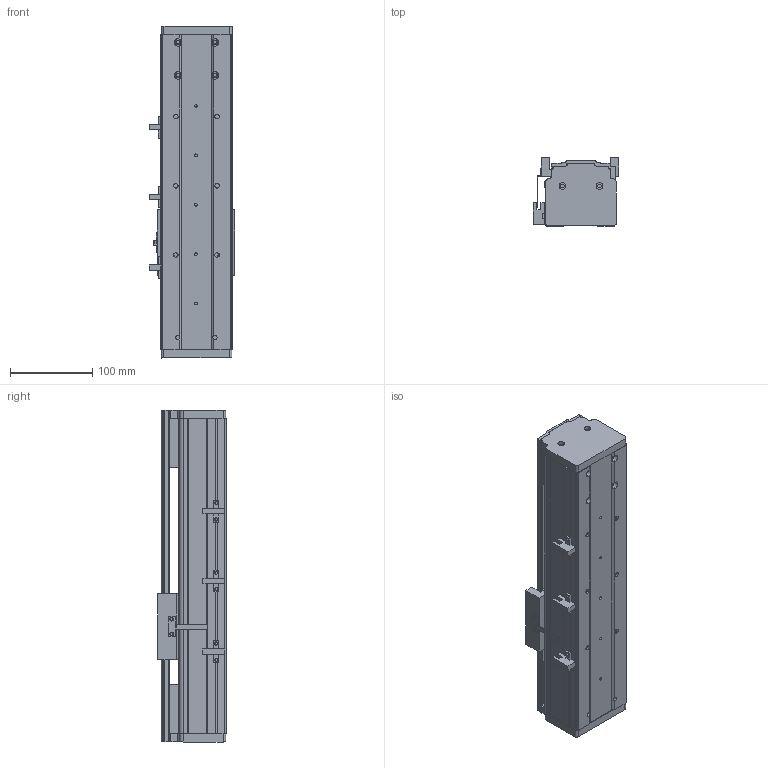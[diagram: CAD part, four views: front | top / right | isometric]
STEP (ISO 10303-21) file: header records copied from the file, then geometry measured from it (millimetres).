
FILE_DESCRIPTION (( 'STEP AP214' ), '1' );
FILE_NAME ('CF86-D-150-FWR.STEP', '2020-01-15T07:18:11', ( '微软用户' ), ( '微软中国' ), 'SwSTEP 2.0', 'SolidWorks 2016', '' );
FILE_SCHEMA (( 'AUTOMOTIVE_DESIGN' ));
Length unit declared in the file: millimetre
Products named in the file (12): EGR15-150; 86臏倰第-150; 86裔啣-150; CF86-D-150-FWR; 嫖萇羲壽; 75-86-95癹弇羲壽覜茼え; 86耜啣 - 萵掛; 86耜啣; 植雄耜; CF86郔陔翋雄釱; CF86賑輸; EGW15CA賑輸
Assembly tree (13 placements, depth 2):
  CF86-D-150-FWR
    86裔啣-150
    86臏倰第-150
    EGR15-150
    EGW15CA賑輸
    CF86賑輸
    CF86郔陔翋雄釱
    植雄耜
    86耜啣
    86耜啣 - 萵掛
    75-86-95癹弇羲壽覜茼え
    嫖萇羲壽  x3
Bounding box: 103.6 x 83.35 x 403 mm (x, y, z)
Volume: 1482085.6 mm3; surface area: 419332.1 mm2
Topology: 13 solids, 13 shells, 600 faces, 1650 edges, 1089 vertices
Faces by surface type: plane 347, cylinder 243, cone 10
Entity records: 19098 total; most frequent: CARTESIAN_POINT 3297, DIRECTION 3058, ORIENTED_EDGE 2992, EDGE_CURVE 1496, AXIS2_PLACEMENT_3D 1042, VERTEX_POINT 993, VECTOR 974, LINE 974
